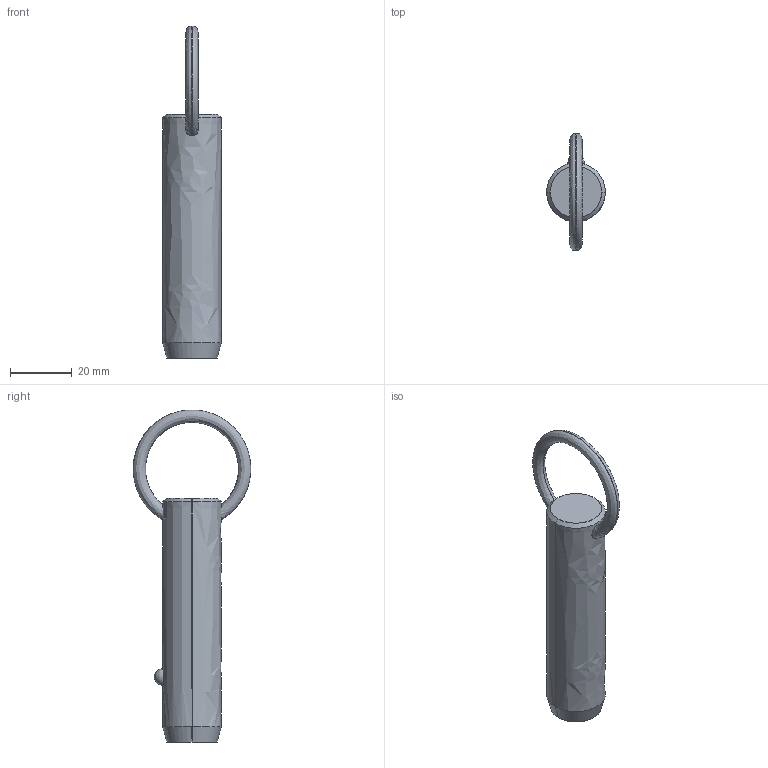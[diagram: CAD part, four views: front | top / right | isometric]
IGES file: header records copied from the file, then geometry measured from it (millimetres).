
Start section: SolidWorks IGES file using analytic representation for surfaces
Global section: file name: C:\Users\liam_\OneDrive\Documents\WORK\Work for WixRoyd\Job Files\J-00019 - Matt Davis CAD Checking\04. CAD Drawings\automotion20190605\P1250.2_v2\P1250.2_v2_20190729_IGES\P1250.075-180.igs; native system: SolidWorks 2017; preprocessor: SolidWorks 2017; author: liam_; date: 190729.234833; units: millimetre
Bounding box: 19 x 38.09 x 107.5 mm (x, y, z)
Surface area: 6242.4 mm2 (no closed solid volume)
Topology: 0 solids, 0 shells, 12 faces, 294 edges, 292 vertices
Faces by surface type: revolution 8, bspline 4
